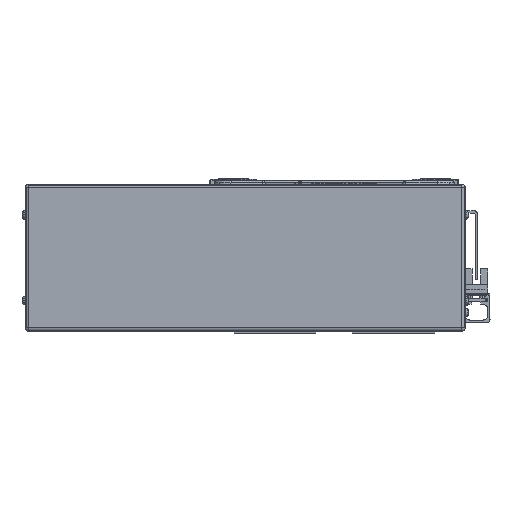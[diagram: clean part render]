
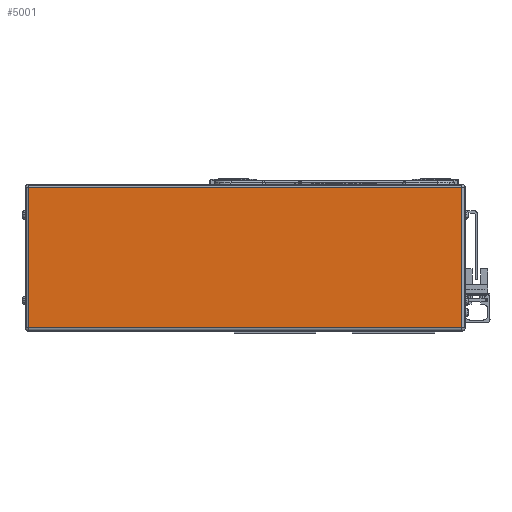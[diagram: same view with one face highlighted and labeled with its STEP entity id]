
A CAD part, left-side view. The second image highlights one B-rep face of the part: STEP entity #5001.
In plain terms, the highlighted planar face has unit normal (-1, 0, 0).
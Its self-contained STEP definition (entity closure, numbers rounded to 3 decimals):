
#5001=ADVANCED_FACE('',(#11632),#11633,.F.);
#11632=FACE_OUTER_BOUND('',#20617,.T.);
#11633=PLANE('',#20618);
#20617=EDGE_LOOP('',(#35351,#35352,#35353,#35354));
#20618=AXIS2_PLACEMENT_3D('',#35355,#35356,#35357);
#35351=ORIENTED_EDGE('',*,*,#56267,.T.);
#35352=ORIENTED_EDGE('',*,*,#56268,.T.);
#35353=ORIENTED_EDGE('',*,*,#56269,.T.);
#35354=ORIENTED_EDGE('',*,*,#55360,.T.);
#35355=CARTESIAN_POINT('',(-45.,180.5,0.));
#35356=DIRECTION('',(1.0,0.,0.));
#35357=DIRECTION('',(0.,0.,1.0));
#55360=EDGE_CURVE('',#67393,#67391,#67394,.T.);
#56267=EDGE_CURVE('',#67391,#68774,#68775,.T.);
#56268=EDGE_CURVE('',#68774,#62232,#68776,.T.);
#56269=EDGE_CURVE('',#62232,#67393,#68777,.T.);
#62232=VERTEX_POINT('',#76515);
#67391=VERTEX_POINT('',#84028);
#67393=VERTEX_POINT('',#84030);
#67394=LINE('',#84031,#84032);
#68774=VERTEX_POINT('',#85927);
#68775=LINE('',#85928,#85929);
#68776=LINE('',#85930,#85931);
#68777=LINE('',#85932,#85933);
#76515=CARTESIAN_POINT('',(-45.,-74.5,-41.));
#84028=CARTESIAN_POINT('',(-45.,178.5,41.));
#84030=CARTESIAN_POINT('',(-45.,-74.5,41.));
#84031=CARTESIAN_POINT('',(-45.,180.5,41.));
#84032=VECTOR('',#99970,10.0);
#85927=CARTESIAN_POINT('',(-45.,178.5,-41.));
#85928=CARTESIAN_POINT('',(-45.,178.5,0.));
#85929=VECTOR('',#101177,10.0);
#85930=CARTESIAN_POINT('',(-45.,180.5,-41.));
#85931=VECTOR('',#101178,10.0);
#85932=CARTESIAN_POINT('',(-45.,-74.5,0.));
#85933=VECTOR('',#101179,10.0);
#99970=DIRECTION('',(0.,1.0,0.));
#101177=DIRECTION('',(0.,0.,-1.0));
#101178=DIRECTION('',(0.,-1.0,0.));
#101179=DIRECTION('',(0.,0.,1.0));
